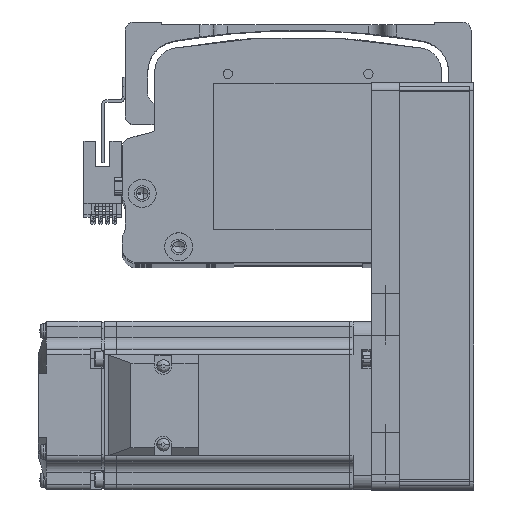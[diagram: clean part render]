
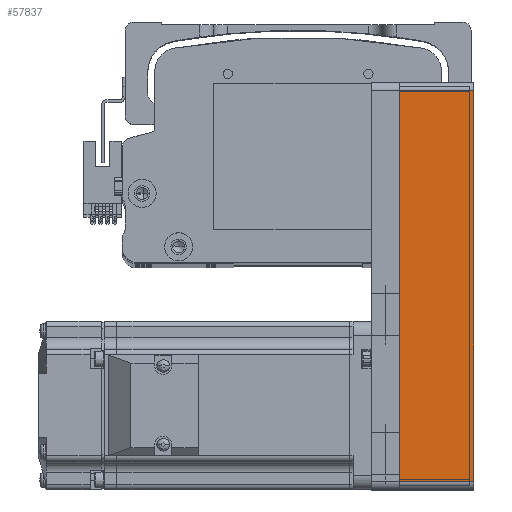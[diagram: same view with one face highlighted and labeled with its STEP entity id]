
A CAD part, top view. The second image highlights one B-rep face of the part: STEP entity #57837.
In plain terms, the highlighted planar face has unit normal (0, 0, 1) as drawn and (0, -1, 0) by its records, which use the part's own axes.
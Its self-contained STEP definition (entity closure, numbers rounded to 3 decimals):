
#3585 = ORIENTED_EDGE ( 'NONE', *, *, #25339, .T. ) ;
#4893 = LINE ( 'NONE', #63918, #37093 ) ;
#5740 = VERTEX_POINT ( 'NONE', #24149 ) ;
#8484 = EDGE_CURVE ( 'NONE', #55305, #13551, #23197, .T. ) ;
#9971 = EDGE_LOOP ( 'NONE', ( #3585, #25887, #52472, #38916 ) ) ;
#10774 = CARTESIAN_POINT ( 'NONE',  ( 69.5, -30., 26.5 ) ) ;
#13551 = VERTEX_POINT ( 'NONE', #53435 ) ;
#23197 = LINE ( 'NONE', #72697, #72401 ) ;
#24149 = CARTESIAN_POINT ( 'NONE',  ( 69.5, -30., 26.5 ) ) ;
#25339 = EDGE_CURVE ( 'NONE', #13551, #79936, #4893, .T. ) ;
#25556 = CARTESIAN_POINT ( 'NONE',  ( 72.5, -30., 26.5 ) ) ;
#25887 = ORIENTED_EDGE ( 'NONE', *, *, #71413, .T. ) ;
#27213 = AXIS2_PLACEMENT_3D ( 'NONE', #25556, #70469, #32042 ) ;
#29137 = CARTESIAN_POINT ( 'NONE',  ( -69.5, -30., 26.5 ) ) ;
#32042 = DIRECTION ( 'NONE',  ( -1., 0., 0. ) ) ;
#35808 = DIRECTION ( 'NONE',  ( 1., 0., 0. ) ) ;
#37093 = VECTOR ( 'NONE', #83285, 1000. ) ;
#38916 = ORIENTED_EDGE ( 'NONE', *, *, #8484, .T. ) ;
#51327 = EDGE_CURVE ( 'NONE', #55305, #5740, #67514, .T. ) ;
#52454 = VECTOR ( 'NONE', #35808, 1000. ) ;
#52472 = ORIENTED_EDGE ( 'NONE', *, *, #51327, .F. ) ;
#53435 = CARTESIAN_POINT ( 'NONE',  ( -69.5, -30., 0. ) ) ;
#54235 = VECTOR ( 'NONE', #68617, 1000. ) ;
#55305 = VERTEX_POINT ( 'NONE', #29137 ) ;
#57837 = ADVANCED_FACE ( 'NONE', ( #82252 ), #83135, .F. ) ;
#63918 = CARTESIAN_POINT ( 'NONE',  ( 72.5, -30., 0. ) ) ;
#66588 = DIRECTION ( 'NONE',  ( 0., 0., -1. ) ) ;
#67514 = LINE ( 'NONE', #80741, #52454 ) ;
#68617 = DIRECTION ( 'NONE',  ( 0., 0., 1. ) ) ;
#70469 = DIRECTION ( 'NONE',  ( 0., 1., 0. ) ) ;
#71273 = LINE ( 'NONE', #10774, #54235 ) ;
#71413 = EDGE_CURVE ( 'NONE', #79936, #5740, #71273, .T. ) ;
#72401 = VECTOR ( 'NONE', #66588, 1000. ) ;
#72697 = CARTESIAN_POINT ( 'NONE',  ( -69.5, -30., 26.5 ) ) ;
#78781 = CARTESIAN_POINT ( 'NONE',  ( 69.5, -30., 0. ) ) ;
#79936 = VERTEX_POINT ( 'NONE', #78781 ) ;
#80741 = CARTESIAN_POINT ( 'NONE',  ( 72.5, -30., 26.5 ) ) ;
#82252 = FACE_OUTER_BOUND ( 'NONE', #9971, .T. ) ;
#83135 = PLANE ( 'NONE',  #27213 ) ;
#83285 = DIRECTION ( 'NONE',  ( 1., 0., 0. ) ) ;
